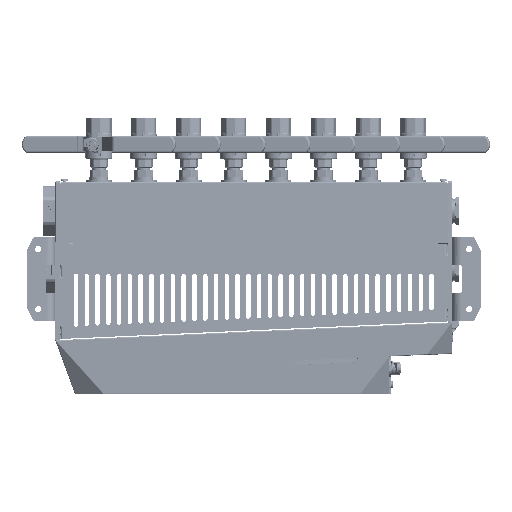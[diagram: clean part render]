
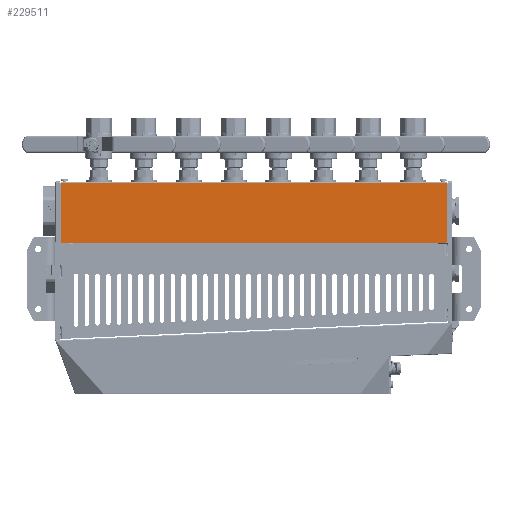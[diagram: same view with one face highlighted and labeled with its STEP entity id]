
A CAD part, left-side view. The second image highlights one B-rep face of the part: STEP entity #229511.
In plain terms, the highlighted planar face has unit normal (-1, 0, 0) as drawn and (0, -1, 0) by its records, which use the part's own axes.
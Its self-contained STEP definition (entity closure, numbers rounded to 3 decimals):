
#2722 = CIRCLE ( 'NONE', #176799, 1. ) ;
#8620 = VECTOR ( 'NONE', #145605, 1000. ) ;
#23512 = ORIENTED_EDGE ( 'NONE', *, *, #359550, .F. ) ;
#30950 = LINE ( 'NONE', #320232, #8620 ) ;
#32998 = CARTESIAN_POINT ( 'NONE',  ( -68., -84., -214. ) ) ;
#33987 = ORIENTED_EDGE ( 'NONE', *, *, #83562, .T. ) ;
#35159 = CARTESIAN_POINT ( 'NONE',  ( -68., -84., 214. ) ) ;
#35432 = VERTEX_POINT ( 'NONE', #125250 ) ;
#38842 = AXIS2_PLACEMENT_3D ( 'NONE', #118222, #229037, #202685 ) ;
#42479 = LINE ( 'NONE', #188990, #43908 ) ;
#43908 = VECTOR ( 'NONE', #329982, 1000. ) ;
#49350 = VERTEX_POINT ( 'NONE', #154221 ) ;
#54093 = VERTEX_POINT ( 'NONE', #32998 ) ;
#63055 = CIRCLE ( 'NONE', #38842, 1. ) ;
#65996 = EDGE_CURVE ( 'NONE', #49350, #300140, #112737, .T. ) ;
#66229 = DIRECTION ( 'NONE',  ( 0., -1., 0. ) ) ;
#83562 = EDGE_CURVE ( 'NONE', #35432, #185712, #63055, .T. ) ;
#109234 = FACE_OUTER_BOUND ( 'NONE', #366151, .T. ) ;
#112737 = LINE ( 'NONE', #255544, #345825 ) ;
#115901 = ORIENTED_EDGE ( 'NONE', *, *, #65996, .F. ) ;
#118222 = CARTESIAN_POINT ( 'NONE',  ( -67., -84., 214. ) ) ;
#125250 = CARTESIAN_POINT ( 'NONE',  ( -67., -84., 215. ) ) ;
#139868 = ORIENTED_EDGE ( 'NONE', *, *, #307070, .T. ) ;
#141426 = ORIENTED_EDGE ( 'NONE', *, *, #238323, .T. ) ;
#142993 = DIRECTION ( 'NONE',  ( 0., -1., 0. ) ) ;
#145605 = DIRECTION ( 'NONE',  ( -1., 0., 0. ) ) ;
#154221 = CARTESIAN_POINT ( 'NONE',  ( -2., -84., -215. ) ) ;
#171127 = CARTESIAN_POINT ( 'NONE',  ( 0., -84., 215. ) ) ;
#176799 = AXIS2_PLACEMENT_3D ( 'NONE', #327317, #66229, #295362 ) ;
#185712 = VERTEX_POINT ( 'NONE', #35159 ) ;
#188990 = CARTESIAN_POINT ( 'NONE',  ( -2., -84., 215. ) ) ;
#193588 = CARTESIAN_POINT ( 'NONE',  ( -68., -84., 215. ) ) ;
#197434 = PLANE ( 'NONE',  #249874 ) ;
#202685 = DIRECTION ( 'NONE',  ( 1., 0., 0. ) ) ;
#219939 = EDGE_CURVE ( 'NONE', #366469, #35432, #30950, .T. ) ;
#229037 = DIRECTION ( 'NONE',  ( 0., -1., 0. ) ) ;
#229253 = VECTOR ( 'NONE', #276278, 1000. ) ;
#229511 = ADVANCED_FACE ( 'NONE', ( #109234 ), #197434, .T. ) ;
#238323 = EDGE_CURVE ( 'NONE', #54093, #300140, #2722, .T. ) ;
#249874 = AXIS2_PLACEMENT_3D ( 'NONE', #171127, #142993, #311999 ) ;
#250020 = LINE ( 'NONE', #193588, #229253 ) ;
#253675 = DIRECTION ( 'NONE',  ( -1., 0., 0. ) ) ;
#255544 = CARTESIAN_POINT ( 'NONE',  ( 0., -84., -215. ) ) ;
#265354 = CARTESIAN_POINT ( 'NONE',  ( -2., -84., 215. ) ) ;
#272879 = ORIENTED_EDGE ( 'NONE', *, *, #219939, .T. ) ;
#276278 = DIRECTION ( 'NONE',  ( 0., 0., -1. ) ) ;
#295362 = DIRECTION ( 'NONE',  ( 1., 0., 0. ) ) ;
#300140 = VERTEX_POINT ( 'NONE', #357665 ) ;
#307070 = EDGE_CURVE ( 'NONE', #185712, #54093, #250020, .T. ) ;
#311999 = DIRECTION ( 'NONE',  ( 1., 0., 0. ) ) ;
#320232 = CARTESIAN_POINT ( 'NONE',  ( 0., -84., 215. ) ) ;
#327317 = CARTESIAN_POINT ( 'NONE',  ( -67., -84., -214. ) ) ;
#329982 = DIRECTION ( 'NONE',  ( 0., 0., -1. ) ) ;
#345825 = VECTOR ( 'NONE', #253675, 1000. ) ;
#357665 = CARTESIAN_POINT ( 'NONE',  ( -67., -84., -215. ) ) ;
#359550 = EDGE_CURVE ( 'NONE', #366469, #49350, #42479, .T. ) ;
#366151 = EDGE_LOOP ( 'NONE', ( #139868, #141426, #115901, #23512, #272879, #33987 ) ) ;
#366469 = VERTEX_POINT ( 'NONE', #265354 ) ;
